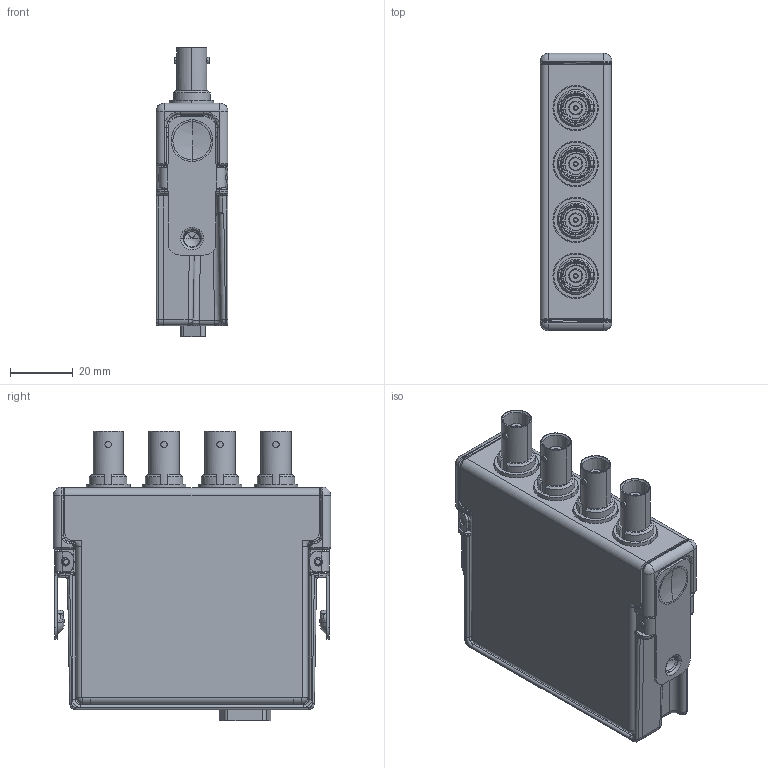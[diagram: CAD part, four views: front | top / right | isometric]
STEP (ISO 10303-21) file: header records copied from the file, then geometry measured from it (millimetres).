
FILE_DESCRIPTION((''),'2;1');
FILE_NAME('CU_NI-9775','2016-11-30T',('dkendric'),(''),'CREO PARAMETRIC BY PTC INC, 2015380','CREO PARAMETRIC BY PTC INC, 2015380','');
FILE_SCHEMA(('CONFIG_CONTROL_DESIGN'));
Products named in the file (1): CU_NI-9775
Bounding box: 22.86 x 88.11 x 92.06 mm (x, y, z)
Volume: 51977.1 mm3; surface area: 59817.3 mm2
Topology: 9 solids, 9 shells, 1720 faces, 4293 edges, 2537 vertices
Faces by surface type: cylinder 614, plane 518, bspline 369, torus 88, cone 86, sphere 39, extrusion 6
Entity records: 77448 total; most frequent: CARTESIAN_POINT 39260, ORIENTED_EDGE 8442, DIRECTION 7260, EDGE_CURVE 4221, AXIS2_PLACEMENT_3D 2710, VERTEX_POINT 2575, VECTOR 1840, EDGE_LOOP 1836
